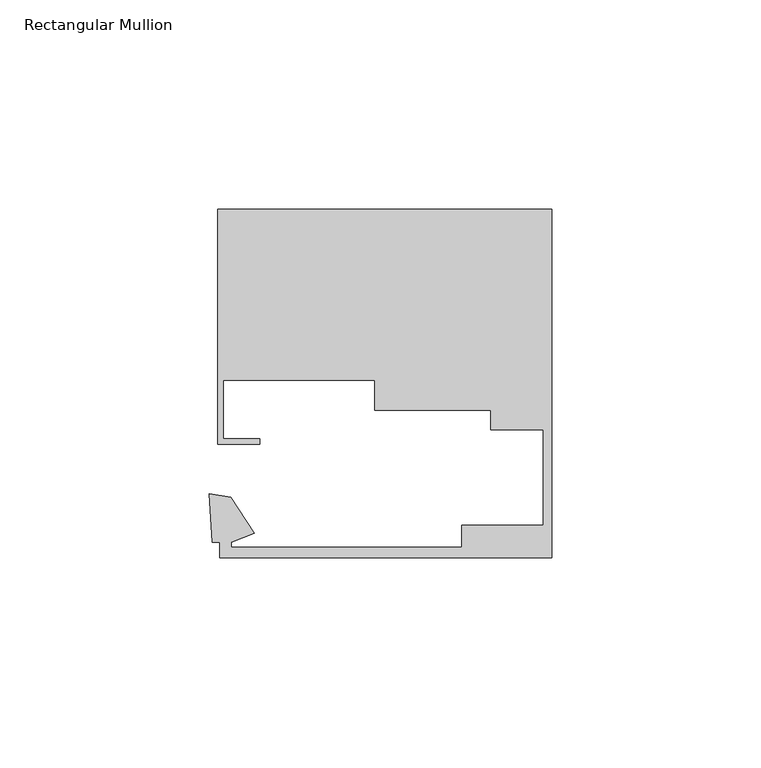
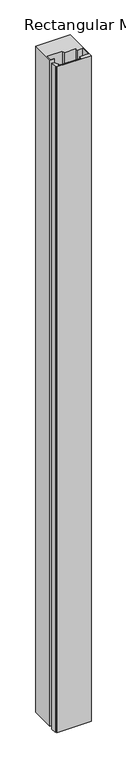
"""IFC4 building model written with IfcOpenShell, lengths in millimetres: member geometry, Rectangular Mullion : Danpal_NM_End-Mullion_B1."""

from ifc_helpers import new_model, si_unit, frame, origin, place, context, project, spatial, polyline, outline, extrude, source, transform, mapped, element, save


def rectangular_mullion_7f2ec0c3(model_context):
    return source(origin(), model_context, "Body", "SweptSolid", [
        extrude(outline(polyline([(0.0, 68.4940825), (0.0, -14.8051514), (-79.3474874, -14.8003189), (-79.3474874, -11.1413992), (-81.1597999, -11.1413992), (-81.8779002, 0.484903), (-76.7540801, -0.319325), (-71.0577359, -9.0180613), (-76.6478166, -11.1168176), (-76.6478166, -12.3181946), (-21.5478166, -12.3181946), (-21.5478166, -7.1181946), (-2.0000001, -7.1181946), (-2.0000001, 15.7940824), (-14.6000003, 15.7940824), (-14.6000003, 20.3492381), (-42.2684147, 20.3894746), (-42.2578709, 27.6399085), (-78.4582695, 27.6399085), (-78.4582695, 13.5916994), (-69.8282946, 13.5916994), (-69.8282946, 12.280939), (-79.7784606, 12.280939), (-79.7784606, 68.4940825), (0.0, 68.4940825)])), frame((0.0, 0.0, -1629.047587), z_axis=(0.0, 0.0, 1.0), x_axis=(1.0, 0.0, 0.0)), (0.0, 0.0, 1.0), 1629.047587),
    ])


if __name__ == "__main__":
    model = new_model("IFC4")
    model_context = context("Model", 3, world=origin())
    ifc_project = project(units=[si_unit("LENGTHUNIT", "METRE", prefix="MILLI")], contexts=[model_context])
    site = spatial("IfcSite", under=ifc_project)
    building = spatial("IfcBuilding", under=site)
    placement = place(None, origin())
    rectangular_mullion_shape = rectangular_mullion_7f2ec0c3(model_context)
    element("IfcMember", 1, ObjectType="Rectangular Mullion : Danpal_NM_End-Mullion_B1", at=placement, inside=building, context=model_context, shape_type="MappedRepresentation", body=[
        mapped(rectangular_mullion_shape, transform((0.0, 0.0, 0.0), x_axis=(1.0, 0.0, 0.0), y_axis=(0.0, 1.0, 0.0), z_axis=(0.0, 0.0, 1.0))),
    ])
    save(model, "model.ifc")
